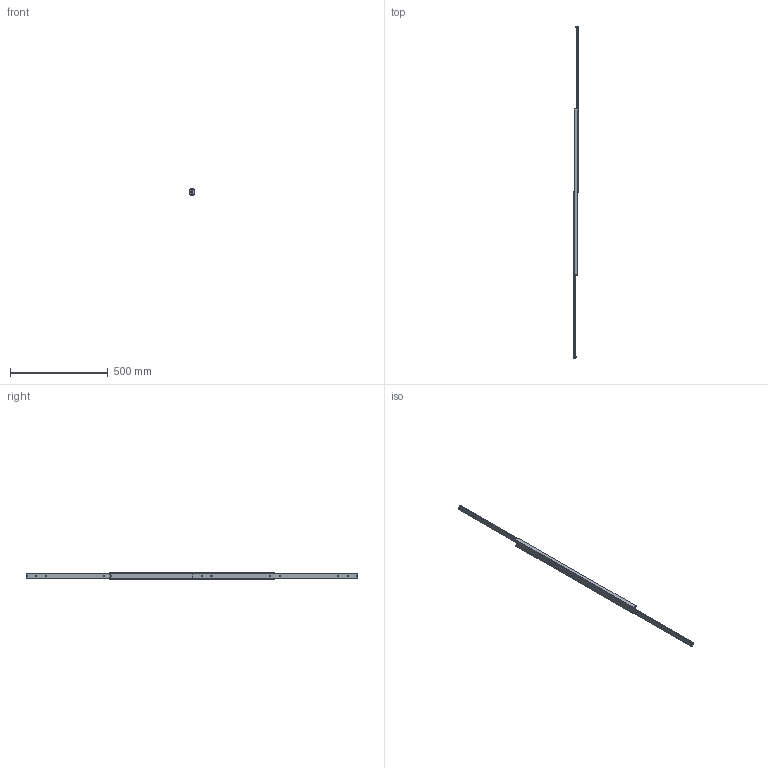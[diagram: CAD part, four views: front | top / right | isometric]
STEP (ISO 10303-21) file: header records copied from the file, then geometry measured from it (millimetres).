
FILE_DESCRIPTION(/* description */ (''),/* implementation_level */ '2;1');
FILE_NAME(/* name */ 'D:\Zeichnungen Schienen Komplett\MX-DTP40\MX-DTP40.085\MX-DTP40.085_ausgefahren.step',/* time_stamp */ '2022-08-16T13:37:38+02:00',/* author */ ('zmile'),/* organization */ (''),/* preprocessor_version */ 'ST-DEVELOPER v16.13',/* originating_system */ 'AutoCAD Mechanical',/* authorisation */ '');
FILE_SCHEMA (('AUTOMOTIVE_DESIGN { 1 0 10303 214 3 1 1 }'));
Products named in the file (1): Product
Bounding box: 24 x 1700 x 40 mm (x, y, z)
Volume: 645127.2 mm3; surface area: 322861.9 mm2
Topology: 71 solids, 71 shells, 296 faces, 822 edges, 544 vertices
Faces by surface type: cylinder 92, plane 84, sphere 64, bspline 50, torus 6
Full cylindrical faces by diameter (mm): 6 x64, 10 x2
Entity records: 98381 total; most frequent: CARTESIAN_POINT 91535, ORIENTED_EDGE 1240, DIRECTION 1220, EDGE_CURVE 620, VERTEX_POINT 542, EDGE_LOOP 528, AXIS2_PLACEMENT_3D 505, FACE_OUTER_BOUND 296
